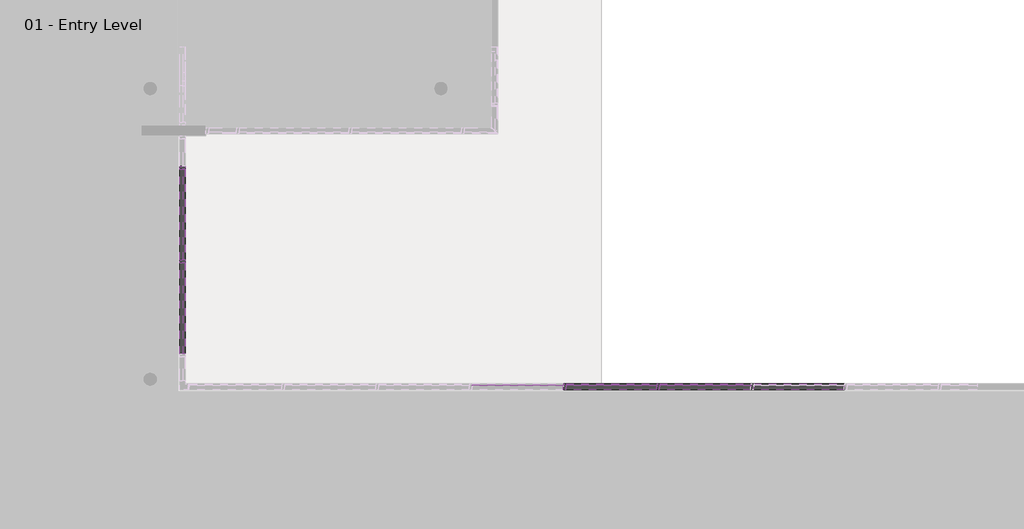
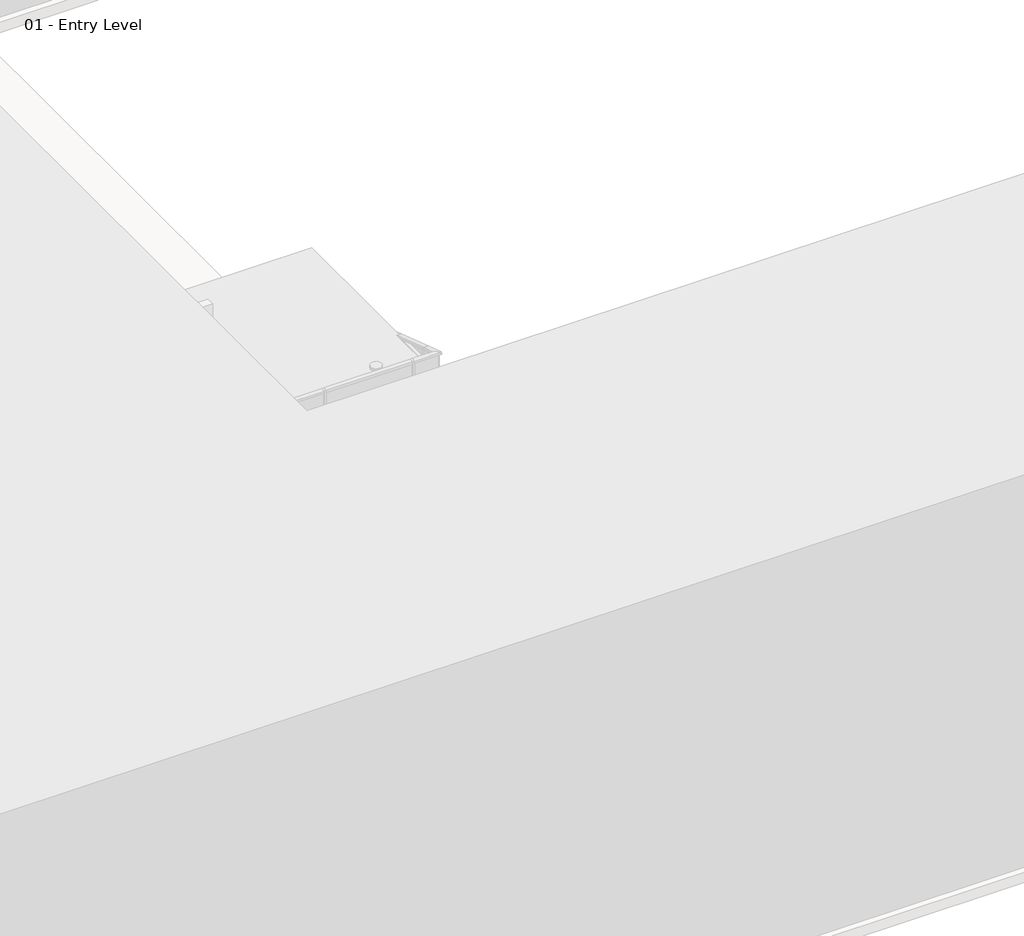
# One storey, part 10 of 34: 88 members, 44 plates.
"""IFC4 building model written with IfcOpenShell, lengths in millimetres."""

from ifc_helpers import new_model, si_unit, origin, place, context, project, spatial, transform, mapped, element, save
from components import member_2b49869a, member_391b434c, member_9e90ae50, member_e5d39754, system_panel_glazed_1b9d6098, system_panel_glazed_70da479d

model = new_model("IFC4")

# Units and contexts
model_context = context("Model", 3, world=origin())
ifc_project = project(units=[si_unit("LENGTHUNIT", "METRE", prefix="MILLI")], contexts=[model_context])

# Site, building, storey
site = spatial("IfcSite", under=ifc_project)
building = spatial("IfcBuilding", under=site)
storey = spatial("IfcBuildingStorey", under=building, Name="01 - Entry Level", Elevation=0.0)

# Members
placement = place(None, origin())
member_shape = member_2b49869a(model_context)
element("IfcMember", 1, ObjectType="Rectangular Mullion : 2.5\" x 5\" rectangular", at=placement, inside=storey, context=model_context, shape_type="MappedRepresentation", body=[
    mapped(member_shape, transform((27496.4207476, 11001.3, 9753.6), x_axis=(-1.0, 0.0, 0.0), y_axis=(0.0, 1.0, 0.0), z_axis=(0.0, 0.0, -1.0))),
])
element("IfcMember", 2, ObjectType="Rectangular Mullion : 2.5\" x 5\" rectangular", at=placement, inside=storey, context=model_context, shape_type="MappedRepresentation", body=[
    mapped(member_shape, transform((25464.4207476, 11001.3, 9753.6), x_axis=(-1.0, 0.0, 0.0), y_axis=(0.0, 1.0, 0.0), z_axis=(0.0, 0.0, -1.0))),
])
element("IfcMember", 3, ObjectType="Rectangular Mullion : 2.5\" x 5\" rectangular", at=placement, inside=storey, context=model_context, shape_type="MappedRepresentation", body=[
    mapped(member_shape, transform((17184.0207476, 13719.1, 9753.6), x_axis=(0.0, 1.0, 0.0), y_axis=(1.0, 0.0, 0.0), z_axis=(0.0, 0.0, -1.0))),
])
element("IfcMember", 4, ObjectType="Rectangular Mullion : 2.5\" x 5\" rectangular", at=placement, inside=storey, context=model_context, shape_type="MappedRepresentation", body=[
    mapped(member_shape, transform((17184.0207476, 15751.1, 9753.6), x_axis=(0.0, 1.0, 0.0), y_axis=(1.0, 0.0, 0.0), z_axis=(0.0, 0.0, -1.0))),
])
member_2_shape = member_391b434c(model_context)
element("IfcMember", 5, ObjectType="Rectangular Mullion : 2.5\" x 5\" rectangular", at=placement, inside=storey, context=model_context, shape_type="MappedRepresentation", body=[
    mapped(member_2_shape, transform((29560.1707476, 11001.3, 10972.8), x_axis=(0.0, 0.0, 1.0), y_axis=(0.0, 1.0, 0.0), z_axis=(-1.0, 0.0, 0.0))),
])
element("IfcMember", 6, ObjectType="Rectangular Mullion : 2.5\" x 5\" rectangular", at=placement, inside=storey, context=model_context, shape_type="MappedRepresentation", body=[
    mapped(member_2_shape, transform((27528.1707476, 11001.3, 10972.8), x_axis=(0.0, 0.0, 1.0), y_axis=(0.0, 1.0, 0.0), z_axis=(-1.0, 0.0, 0.0))),
])
element("IfcMember", 7, ObjectType="Rectangular Mullion : 2.5\" x 5\" rectangular", at=placement, inside=storey, context=model_context, shape_type="MappedRepresentation", body=[
    mapped(member_2_shape, transform((25496.1707476, 11001.3, 10972.8), x_axis=(0.0, 0.0, 1.0), y_axis=(0.0, 1.0, 0.0), z_axis=(-1.0, 0.0, 0.0))),
])
element("IfcMember", 8, ObjectType="Rectangular Mullion : 2.5\" x 5\" rectangular", at=placement, inside=storey, context=model_context, shape_type="MappedRepresentation", body=[
    mapped(member_2_shape, transform((17184.0207476, 13687.35, 10972.8), x_axis=(0.0, 0.0, 1.0), y_axis=(1.0, 0.0, 0.0), z_axis=(0.0, 1.0, 0.0))),
])
element("IfcMember", 9, ObjectType="Rectangular Mullion : 2.5\" x 5\" rectangular", at=placement, inside=storey, context=model_context, shape_type="MappedRepresentation", body=[
    mapped(member_2_shape, transform((17184.0207476, 15719.35, 10972.8), x_axis=(0.0, 0.0, 1.0), y_axis=(1.0, 0.0, 0.0), z_axis=(0.0, 1.0, 0.0))),
])
element("IfcMember", 10, ObjectType="Rectangular Mullion : 2.5\" x 5\" rectangular", at=placement, inside=storey, context=model_context, shape_type="MappedRepresentation", body=[
    mapped(member_2_shape, transform((29496.6707476, 11001.3, 0.0), x_axis=(0.0, 0.0, -1.0), y_axis=(0.0, 1.0, 0.0), z_axis=(1.0, 0.0, 0.0))),
])
element("IfcMember", 11, ObjectType="Rectangular Mullion : 2.5\" x 5\" rectangular", at=placement, inside=storey, context=model_context, shape_type="MappedRepresentation", body=[
    mapped(member_2_shape, transform((27464.6707476, 11001.3, 0.0), x_axis=(0.0, 0.0, -1.0), y_axis=(0.0, 1.0, 0.0), z_axis=(1.0, 0.0, 0.0))),
])
element("IfcMember", 12, ObjectType="Rectangular Mullion : 2.5\" x 5\" rectangular", at=placement, inside=storey, context=model_context, shape_type="MappedRepresentation", body=[
    mapped(member_2_shape, transform((25432.6707476, 11001.3, 0.0), x_axis=(0.0, 0.0, -1.0), y_axis=(0.0, 1.0, 0.0), z_axis=(1.0, 0.0, 0.0))),
])
element("IfcMember", 13, ObjectType="Rectangular Mullion : 2.5\" x 5\" rectangular", at=placement, inside=storey, context=model_context, shape_type="MappedRepresentation", body=[
    mapped(member_2_shape, transform((17184.0207476, 13750.85, 0.0), x_axis=(0.0, 0.0, -1.0), y_axis=(1.0, 0.0, 0.0), z_axis=(0.0, -1.0, 0.0))),
])
member_3_shape = member_9e90ae50(model_context)
element("IfcMember", 14, ObjectType="Rectangular Mullion : 2.5\" x 5\" rectangular", at=placement, inside=storey, context=model_context, shape_type="MappedRepresentation", body=[
    mapped(member_3_shape, transform((29560.1707476, 11001.3, 1219.2), x_axis=(0.0, 0.0, 1.0), y_axis=(0.0, 1.0, 0.0), z_axis=(-1.0, 0.0, 0.0))),
])
element("IfcMember", 15, ObjectType="Rectangular Mullion : 2.5\" x 5\" rectangular", at=placement, inside=storey, context=model_context, shape_type="MappedRepresentation", body=[
    mapped(member_3_shape, transform((27528.1707476, 11001.3, 1219.2), x_axis=(0.0, 0.0, 1.0), y_axis=(0.0, 1.0, 0.0), z_axis=(-1.0, 0.0, 0.0))),
])
element("IfcMember", 16, ObjectType="Rectangular Mullion : 2.5\" x 5\" rectangular", at=placement, inside=storey, context=model_context, shape_type="MappedRepresentation", body=[
    mapped(member_3_shape, transform((25496.1707476, 11001.3, 1219.2), x_axis=(0.0, 0.0, 1.0), y_axis=(0.0, 1.0, 0.0), z_axis=(-1.0, 0.0, 0.0))),
])
element("IfcMember", 17, ObjectType="Rectangular Mullion : 2.5\" x 5\" rectangular", at=placement, inside=storey, context=model_context, shape_type="MappedRepresentation", body=[
    mapped(member_3_shape, transform((29560.1707476, 11001.3, 2438.4), x_axis=(0.0, 0.0, 1.0), y_axis=(0.0, 1.0, 0.0), z_axis=(-1.0, 0.0, 0.0))),
])
element("IfcMember", 18, ObjectType="Rectangular Mullion : 2.5\" x 5\" rectangular", at=placement, inside=storey, context=model_context, shape_type="MappedRepresentation", body=[
    mapped(member_3_shape, transform((27528.1707476, 11001.3, 2438.4), x_axis=(0.0, 0.0, 1.0), y_axis=(0.0, 1.0, 0.0), z_axis=(-1.0, 0.0, 0.0))),
])
element("IfcMember", 19, ObjectType="Rectangular Mullion : 2.5\" x 5\" rectangular", at=placement, inside=storey, context=model_context, shape_type="MappedRepresentation", body=[
    mapped(member_3_shape, transform((25496.1707476, 11001.3, 2438.4), x_axis=(0.0, 0.0, 1.0), y_axis=(0.0, 1.0, 0.0), z_axis=(-1.0, 0.0, 0.0))),
])
element("IfcMember", 20, ObjectType="Rectangular Mullion : 2.5\" x 5\" rectangular", at=placement, inside=storey, context=model_context, shape_type="MappedRepresentation", body=[
    mapped(member_3_shape, transform((29560.1707476, 11001.3, 3657.6), x_axis=(0.0, 0.0, 1.0), y_axis=(0.0, 1.0, 0.0), z_axis=(-1.0, 0.0, 0.0))),
])
element("IfcMember", 21, ObjectType="Rectangular Mullion : 2.5\" x 5\" rectangular", at=placement, inside=storey, context=model_context, shape_type="MappedRepresentation", body=[
    mapped(member_3_shape, transform((27528.1707476, 11001.3, 3657.6), x_axis=(0.0, 0.0, 1.0), y_axis=(0.0, 1.0, 0.0), z_axis=(-1.0, 0.0, 0.0))),
])
element("IfcMember", 22, ObjectType="Rectangular Mullion : 2.5\" x 5\" rectangular", at=placement, inside=storey, context=model_context, shape_type="MappedRepresentation", body=[
    mapped(member_3_shape, transform((25496.1707476, 11001.3, 3657.6), x_axis=(0.0, 0.0, 1.0), y_axis=(0.0, 1.0, 0.0), z_axis=(-1.0, 0.0, 0.0))),
])
element("IfcMember", 23, ObjectType="Rectangular Mullion : 2.5\" x 5\" rectangular", at=placement, inside=storey, context=model_context, shape_type="MappedRepresentation", body=[
    mapped(member_3_shape, transform((29560.1707476, 11001.3, 4876.8), x_axis=(0.0, 0.0, 1.0), y_axis=(0.0, 1.0, 0.0), z_axis=(-1.0, 0.0, 0.0))),
])
element("IfcMember", 24, ObjectType="Rectangular Mullion : 2.5\" x 5\" rectangular", at=placement, inside=storey, context=model_context, shape_type="MappedRepresentation", body=[
    mapped(member_3_shape, transform((27528.1707476, 11001.3, 4876.8), x_axis=(0.0, 0.0, 1.0), y_axis=(0.0, 1.0, 0.0), z_axis=(-1.0, 0.0, 0.0))),
])
element("IfcMember", 25, ObjectType="Rectangular Mullion : 2.5\" x 5\" rectangular", at=placement, inside=storey, context=model_context, shape_type="MappedRepresentation", body=[
    mapped(member_3_shape, transform((25496.1707476, 11001.3, 4876.8), x_axis=(0.0, 0.0, 1.0), y_axis=(0.0, 1.0, 0.0), z_axis=(-1.0, 0.0, 0.0))),
])
element("IfcMember", 26, ObjectType="Rectangular Mullion : 2.5\" x 5\" rectangular", at=placement, inside=storey, context=model_context, shape_type="MappedRepresentation", body=[
    mapped(member_3_shape, transform((29560.1707476, 11001.3, 6096.0), x_axis=(0.0, 0.0, 1.0), y_axis=(0.0, 1.0, 0.0), z_axis=(-1.0, 0.0, 0.0))),
])
element("IfcMember", 27, ObjectType="Rectangular Mullion : 2.5\" x 5\" rectangular", at=placement, inside=storey, context=model_context, shape_type="MappedRepresentation", body=[
    mapped(member_3_shape, transform((27528.1707476, 11001.3, 6096.0), x_axis=(0.0, 0.0, 1.0), y_axis=(0.0, 1.0, 0.0), z_axis=(-1.0, 0.0, 0.0))),
])
element("IfcMember", 28, ObjectType="Rectangular Mullion : 2.5\" x 5\" rectangular", at=placement, inside=storey, context=model_context, shape_type="MappedRepresentation", body=[
    mapped(member_3_shape, transform((25496.1707476, 11001.3, 6096.0), x_axis=(0.0, 0.0, 1.0), y_axis=(0.0, 1.0, 0.0), z_axis=(-1.0, 0.0, 0.0))),
])
element("IfcMember", 29, ObjectType="Rectangular Mullion : 2.5\" x 5\" rectangular", at=placement, inside=storey, context=model_context, shape_type="MappedRepresentation", body=[
    mapped(member_3_shape, transform((29560.1707476, 11001.3, 7315.2), x_axis=(0.0, 0.0, 1.0), y_axis=(0.0, 1.0, 0.0), z_axis=(-1.0, 0.0, 0.0))),
])
element("IfcMember", 30, ObjectType="Rectangular Mullion : 2.5\" x 5\" rectangular", at=placement, inside=storey, context=model_context, shape_type="MappedRepresentation", body=[
    mapped(member_3_shape, transform((27528.1707476, 11001.3, 7315.2), x_axis=(0.0, 0.0, 1.0), y_axis=(0.0, 1.0, 0.0), z_axis=(-1.0, 0.0, 0.0))),
])
element("IfcMember", 31, ObjectType="Rectangular Mullion : 2.5\" x 5\" rectangular", at=placement, inside=storey, context=model_context, shape_type="MappedRepresentation", body=[
    mapped(member_3_shape, transform((25496.1707476, 11001.3, 7315.2), x_axis=(0.0, 0.0, 1.0), y_axis=(0.0, 1.0, 0.0), z_axis=(-1.0, 0.0, 0.0))),
])
element("IfcMember", 32, ObjectType="Rectangular Mullion : 2.5\" x 5\" rectangular", at=placement, inside=storey, context=model_context, shape_type="MappedRepresentation", body=[
    mapped(member_3_shape, transform((29560.1707476, 11001.3, 8534.4), x_axis=(0.0, 0.0, 1.0), y_axis=(0.0, 1.0, 0.0), z_axis=(-1.0, 0.0, 0.0))),
])
element("IfcMember", 33, ObjectType="Rectangular Mullion : 2.5\" x 5\" rectangular", at=placement, inside=storey, context=model_context, shape_type="MappedRepresentation", body=[
    mapped(member_3_shape, transform((27528.1707476, 11001.3, 8534.4), x_axis=(0.0, 0.0, 1.0), y_axis=(0.0, 1.0, 0.0), z_axis=(-1.0, 0.0, 0.0))),
])
element("IfcMember", 34, ObjectType="Rectangular Mullion : 2.5\" x 5\" rectangular", at=placement, inside=storey, context=model_context, shape_type="MappedRepresentation", body=[
    mapped(member_3_shape, transform((25496.1707476, 11001.3, 8534.4), x_axis=(0.0, 0.0, 1.0), y_axis=(0.0, 1.0, 0.0), z_axis=(-1.0, 0.0, 0.0))),
])
element("IfcMember", 35, ObjectType="Rectangular Mullion : 2.5\" x 5\" rectangular", at=placement, inside=storey, context=model_context, shape_type="MappedRepresentation", body=[
    mapped(member_3_shape, transform((29560.1707476, 11001.3, 9753.6), x_axis=(0.0, 0.0, 1.0), y_axis=(0.0, 1.0, 0.0), z_axis=(-1.0, 0.0, 0.0))),
])
element("IfcMember", 36, ObjectType="Rectangular Mullion : 2.5\" x 5\" rectangular", at=placement, inside=storey, context=model_context, shape_type="MappedRepresentation", body=[
    mapped(member_3_shape, transform((27528.1707476, 11001.3, 9753.6), x_axis=(0.0, 0.0, 1.0), y_axis=(0.0, 1.0, 0.0), z_axis=(-1.0, 0.0, 0.0))),
])
element("IfcMember", 37, ObjectType="Rectangular Mullion : 2.5\" x 5\" rectangular", at=placement, inside=storey, context=model_context, shape_type="MappedRepresentation", body=[
    mapped(member_3_shape, transform((25496.1707476, 11001.3, 9753.6), x_axis=(0.0, 0.0, 1.0), y_axis=(0.0, 1.0, 0.0), z_axis=(-1.0, 0.0, 0.0))),
])
element("IfcMember", 38, ObjectType="Rectangular Mullion : 2.5\" x 5\" rectangular", at=placement, inside=storey, context=model_context, shape_type="MappedRepresentation", body=[
    mapped(member_3_shape, transform((17184.0207476, 13687.35, 1219.2), x_axis=(0.0, 0.0, 1.0), y_axis=(1.0, 0.0, 0.0), z_axis=(0.0, 1.0, 0.0))),
])
element("IfcMember", 39, ObjectType="Rectangular Mullion : 2.5\" x 5\" rectangular", at=placement, inside=storey, context=model_context, shape_type="MappedRepresentation", body=[
    mapped(member_3_shape, transform((17184.0207476, 15719.35, 1219.2), x_axis=(0.0, 0.0, 1.0), y_axis=(1.0, 0.0, 0.0), z_axis=(0.0, 1.0, 0.0))),
])
element("IfcMember", 40, ObjectType="Rectangular Mullion : 2.5\" x 5\" rectangular", at=placement, inside=storey, context=model_context, shape_type="MappedRepresentation", body=[
    mapped(member_3_shape, transform((17184.0207476, 13687.35, 2438.4), x_axis=(0.0, 0.0, 1.0), y_axis=(1.0, 0.0, 0.0), z_axis=(0.0, 1.0, 0.0))),
])
element("IfcMember", 41, ObjectType="Rectangular Mullion : 2.5\" x 5\" rectangular", at=placement, inside=storey, context=model_context, shape_type="MappedRepresentation", body=[
    mapped(member_3_shape, transform((17184.0207476, 15719.35, 2438.4), x_axis=(0.0, 0.0, 1.0), y_axis=(1.0, 0.0, 0.0), z_axis=(0.0, 1.0, 0.0))),
])
element("IfcMember", 42, ObjectType="Rectangular Mullion : 2.5\" x 5\" rectangular", at=placement, inside=storey, context=model_context, shape_type="MappedRepresentation", body=[
    mapped(member_3_shape, transform((17184.0207476, 13687.35, 3657.6), x_axis=(0.0, 0.0, 1.0), y_axis=(1.0, 0.0, 0.0), z_axis=(0.0, 1.0, 0.0))),
])
element("IfcMember", 43, ObjectType="Rectangular Mullion : 2.5\" x 5\" rectangular", at=placement, inside=storey, context=model_context, shape_type="MappedRepresentation", body=[
    mapped(member_3_shape, transform((17184.0207476, 15719.35, 3657.6), x_axis=(0.0, 0.0, 1.0), y_axis=(1.0, 0.0, 0.0), z_axis=(0.0, 1.0, 0.0))),
])
element("IfcMember", 44, ObjectType="Rectangular Mullion : 2.5\" x 5\" rectangular", at=placement, inside=storey, context=model_context, shape_type="MappedRepresentation", body=[
    mapped(member_3_shape, transform((17184.0207476, 13687.35, 4876.8), x_axis=(0.0, 0.0, 1.0), y_axis=(1.0, 0.0, 0.0), z_axis=(0.0, 1.0, 0.0))),
])
element("IfcMember", 45, ObjectType="Rectangular Mullion : 2.5\" x 5\" rectangular", at=placement, inside=storey, context=model_context, shape_type="MappedRepresentation", body=[
    mapped(member_3_shape, transform((17184.0207476, 15719.35, 4876.8), x_axis=(0.0, 0.0, 1.0), y_axis=(1.0, 0.0, 0.0), z_axis=(0.0, 1.0, 0.0))),
])
element("IfcMember", 46, ObjectType="Rectangular Mullion : 2.5\" x 5\" rectangular", at=placement, inside=storey, context=model_context, shape_type="MappedRepresentation", body=[
    mapped(member_3_shape, transform((17184.0207476, 13687.35, 6096.0), x_axis=(0.0, 0.0, 1.0), y_axis=(1.0, 0.0, 0.0), z_axis=(0.0, 1.0, 0.0))),
])
element("IfcMember", 47, ObjectType="Rectangular Mullion : 2.5\" x 5\" rectangular", at=placement, inside=storey, context=model_context, shape_type="MappedRepresentation", body=[
    mapped(member_3_shape, transform((17184.0207476, 15719.35, 6096.0), x_axis=(0.0, 0.0, 1.0), y_axis=(1.0, 0.0, 0.0), z_axis=(0.0, 1.0, 0.0))),
])
element("IfcMember", 48, ObjectType="Rectangular Mullion : 2.5\" x 5\" rectangular", at=placement, inside=storey, context=model_context, shape_type="MappedRepresentation", body=[
    mapped(member_3_shape, transform((17184.0207476, 13687.35, 7315.2), x_axis=(0.0, 0.0, 1.0), y_axis=(1.0, 0.0, 0.0), z_axis=(0.0, 1.0, 0.0))),
])
element("IfcMember", 49, ObjectType="Rectangular Mullion : 2.5\" x 5\" rectangular", at=placement, inside=storey, context=model_context, shape_type="MappedRepresentation", body=[
    mapped(member_3_shape, transform((17184.0207476, 15719.35, 7315.2), x_axis=(0.0, 0.0, 1.0), y_axis=(1.0, 0.0, 0.0), z_axis=(0.0, 1.0, 0.0))),
])
element("IfcMember", 50, ObjectType="Rectangular Mullion : 2.5\" x 5\" rectangular", at=placement, inside=storey, context=model_context, shape_type="MappedRepresentation", body=[
    mapped(member_3_shape, transform((17184.0207476, 13687.35, 8534.4), x_axis=(0.0, 0.0, 1.0), y_axis=(1.0, 0.0, 0.0), z_axis=(0.0, 1.0, 0.0))),
])
element("IfcMember", 51, ObjectType="Rectangular Mullion : 2.5\" x 5\" rectangular", at=placement, inside=storey, context=model_context, shape_type="MappedRepresentation", body=[
    mapped(member_3_shape, transform((17184.0207476, 15719.35, 8534.4), x_axis=(0.0, 0.0, 1.0), y_axis=(1.0, 0.0, 0.0), z_axis=(0.0, 1.0, 0.0))),
])
element("IfcMember", 52, ObjectType="Rectangular Mullion : 2.5\" x 5\" rectangular", at=placement, inside=storey, context=model_context, shape_type="MappedRepresentation", body=[
    mapped(member_3_shape, transform((17184.0207476, 13687.35, 9753.6), x_axis=(0.0, 0.0, 1.0), y_axis=(1.0, 0.0, 0.0), z_axis=(0.0, 1.0, 0.0))),
])
element("IfcMember", 53, ObjectType="Rectangular Mullion : 2.5\" x 5\" rectangular", at=placement, inside=storey, context=model_context, shape_type="MappedRepresentation", body=[
    mapped(member_3_shape, transform((17184.0207476, 15719.35, 9753.6), x_axis=(0.0, 0.0, 1.0), y_axis=(1.0, 0.0, 0.0), z_axis=(0.0, 1.0, 0.0))),
])
element("IfcMember", 54, ObjectType="Rectangular Mullion : 2.5\" x 5\" rectangular", at=placement, inside=storey, context=model_context, shape_type="MappedRepresentation", body=[
    mapped(member_shape, transform((29528.4207476, 11001.3, 0.0), x_axis=(-1.0, 0.0, 0.0), y_axis=(0.0, 1.0, 0.0), z_axis=(0.0, 0.0, -1.0))),
])
element("IfcMember", 55, ObjectType="Rectangular Mullion : 2.5\" x 5\" rectangular", at=placement, inside=storey, context=model_context, shape_type="MappedRepresentation", body=[
    mapped(member_shape, transform((27496.4207476, 11001.3, 0.0), x_axis=(-1.0, 0.0, 0.0), y_axis=(0.0, 1.0, 0.0), z_axis=(0.0, 0.0, -1.0))),
])
element("IfcMember", 56, ObjectType="Rectangular Mullion : 2.5\" x 5\" rectangular", at=placement, inside=storey, context=model_context, shape_type="MappedRepresentation", body=[
    mapped(member_shape, transform((25464.4207476, 11001.3, 0.0), x_axis=(-1.0, 0.0, 0.0), y_axis=(0.0, 1.0, 0.0), z_axis=(0.0, 0.0, -1.0))),
])
element("IfcMember", 57, ObjectType="Rectangular Mullion : 2.5\" x 5\" rectangular", at=placement, inside=storey, context=model_context, shape_type="MappedRepresentation", body=[
    mapped(member_shape, transform((17184.0207476, 13719.1, 0.0), x_axis=(0.0, 1.0, 0.0), y_axis=(1.0, 0.0, 0.0), z_axis=(0.0, 0.0, -1.0))),
])
element("IfcMember", 58, ObjectType="Rectangular Mullion : 2.5\" x 5\" rectangular", at=placement, inside=storey, context=model_context, shape_type="MappedRepresentation", body=[
    mapped(member_shape, transform((17184.0207476, 15751.1, 0.0), x_axis=(0.0, 1.0, 0.0), y_axis=(1.0, 0.0, 0.0), z_axis=(0.0, 0.0, -1.0))),
])
element("IfcMember", 59, ObjectType="Rectangular Mullion : 2.5\" x 5\" rectangular", at=placement, inside=storey, context=model_context, shape_type="MappedRepresentation", body=[
    mapped(member_shape, transform((29528.4207476, 11001.3, 1219.2), x_axis=(-1.0, 0.0, 0.0), y_axis=(0.0, 1.0, 0.0), z_axis=(0.0, 0.0, -1.0))),
])
element("IfcMember", 60, ObjectType="Rectangular Mullion : 2.5\" x 5\" rectangular", at=placement, inside=storey, context=model_context, shape_type="MappedRepresentation", body=[
    mapped(member_shape, transform((27496.4207476, 11001.3, 1219.2), x_axis=(-1.0, 0.0, 0.0), y_axis=(0.0, 1.0, 0.0), z_axis=(0.0, 0.0, -1.0))),
])
element("IfcMember", 61, ObjectType="Rectangular Mullion : 2.5\" x 5\" rectangular", at=placement, inside=storey, context=model_context, shape_type="MappedRepresentation", body=[
    mapped(member_shape, transform((25464.4207476, 11001.3, 1219.2), x_axis=(-1.0, 0.0, 0.0), y_axis=(0.0, 1.0, 0.0), z_axis=(0.0, 0.0, -1.0))),
])
element("IfcMember", 62, ObjectType="Rectangular Mullion : 2.5\" x 5\" rectangular", at=placement, inside=storey, context=model_context, shape_type="MappedRepresentation", body=[
    mapped(member_shape, transform((27496.4207476, 11001.3, 2438.4), x_axis=(-1.0, 0.0, 0.0), y_axis=(0.0, 1.0, 0.0), z_axis=(0.0, 0.0, -1.0))),
])
element("IfcMember", 63, ObjectType="Rectangular Mullion : 2.5\" x 5\" rectangular", at=placement, inside=storey, context=model_context, shape_type="MappedRepresentation", body=[
    mapped(member_shape, transform((25464.4207476, 11001.3, 2438.4), x_axis=(-1.0, 0.0, 0.0), y_axis=(0.0, 1.0, 0.0), z_axis=(0.0, 0.0, -1.0))),
])
element("IfcMember", 64, ObjectType="Rectangular Mullion : 2.5\" x 5\" rectangular", at=placement, inside=storey, context=model_context, shape_type="MappedRepresentation", body=[
    mapped(member_shape, transform((27496.4207476, 11001.3, 3657.6), x_axis=(-1.0, 0.0, 0.0), y_axis=(0.0, 1.0, 0.0), z_axis=(0.0, 0.0, -1.0))),
])
element("IfcMember", 65, ObjectType="Rectangular Mullion : 2.5\" x 5\" rectangular", at=placement, inside=storey, context=model_context, shape_type="MappedRepresentation", body=[
    mapped(member_shape, transform((25464.4207476, 11001.3, 3657.6), x_axis=(-1.0, 0.0, 0.0), y_axis=(0.0, 1.0, 0.0), z_axis=(0.0, 0.0, -1.0))),
])
element("IfcMember", 66, ObjectType="Rectangular Mullion : 2.5\" x 5\" rectangular", at=placement, inside=storey, context=model_context, shape_type="MappedRepresentation", body=[
    mapped(member_shape, transform((27496.4207476, 11001.3, 4876.8), x_axis=(-1.0, 0.0, 0.0), y_axis=(0.0, 1.0, 0.0), z_axis=(0.0, 0.0, -1.0))),
])
element("IfcMember", 67, ObjectType="Rectangular Mullion : 2.5\" x 5\" rectangular", at=placement, inside=storey, context=model_context, shape_type="MappedRepresentation", body=[
    mapped(member_shape, transform((25464.4207476, 11001.3, 4876.8), x_axis=(-1.0, 0.0, 0.0), y_axis=(0.0, 1.0, 0.0), z_axis=(0.0, 0.0, -1.0))),
])
element("IfcMember", 68, ObjectType="Rectangular Mullion : 2.5\" x 5\" rectangular", at=placement, inside=storey, context=model_context, shape_type="MappedRepresentation", body=[
    mapped(member_shape, transform((27496.4207476, 11001.3, 6096.0), x_axis=(-1.0, 0.0, 0.0), y_axis=(0.0, 1.0, 0.0), z_axis=(0.0, 0.0, -1.0))),
])
element("IfcMember", 69, ObjectType="Rectangular Mullion : 2.5\" x 5\" rectangular", at=placement, inside=storey, context=model_context, shape_type="MappedRepresentation", body=[
    mapped(member_shape, transform((25464.4207476, 11001.3, 6096.0), x_axis=(-1.0, 0.0, 0.0), y_axis=(0.0, 1.0, 0.0), z_axis=(0.0, 0.0, -1.0))),
])
element("IfcMember", 70, ObjectType="Rectangular Mullion : 2.5\" x 5\" rectangular", at=placement, inside=storey, context=model_context, shape_type="MappedRepresentation", body=[
    mapped(member_shape, transform((27496.4207476, 11001.3, 7315.2), x_axis=(-1.0, 0.0, 0.0), y_axis=(0.0, 1.0, 0.0), z_axis=(0.0, 0.0, -1.0))),
])
element("IfcMember", 71, ObjectType="Rectangular Mullion : 2.5\" x 5\" rectangular", at=placement, inside=storey, context=model_context, shape_type="MappedRepresentation", body=[
    mapped(member_shape, transform((25464.4207476, 11001.3, 7315.2), x_axis=(-1.0, 0.0, 0.0), y_axis=(0.0, 1.0, 0.0), z_axis=(0.0, 0.0, -1.0))),
])
element("IfcMember", 72, ObjectType="Rectangular Mullion : 2.5\" x 5\" rectangular", at=placement, inside=storey, context=model_context, shape_type="MappedRepresentation", body=[
    mapped(member_shape, transform((27496.4207476, 11001.3, 8534.4), x_axis=(-1.0, 0.0, 0.0), y_axis=(0.0, 1.0, 0.0), z_axis=(0.0, 0.0, -1.0))),
])
element("IfcMember", 73, ObjectType="Rectangular Mullion : 2.5\" x 5\" rectangular", at=placement, inside=storey, context=model_context, shape_type="MappedRepresentation", body=[
    mapped(member_shape, transform((25464.4207476, 11001.3, 8534.4), x_axis=(-1.0, 0.0, 0.0), y_axis=(0.0, 1.0, 0.0), z_axis=(0.0, 0.0, -1.0))),
])
element("IfcMember", 74, ObjectType="Rectangular Mullion : 2.5\" x 5\" rectangular", at=placement, inside=storey, context=model_context, shape_type="MappedRepresentation", body=[
    mapped(member_shape, transform((17184.0207476, 13719.1, 1219.2), x_axis=(0.0, 1.0, 0.0), y_axis=(1.0, 0.0, 0.0), z_axis=(0.0, 0.0, -1.0))),
])
element("IfcMember", 75, ObjectType="Rectangular Mullion : 2.5\" x 5\" rectangular", at=placement, inside=storey, context=model_context, shape_type="MappedRepresentation", body=[
    mapped(member_shape, transform((17184.0207476, 13719.1, 2438.4), x_axis=(0.0, 1.0, 0.0), y_axis=(1.0, 0.0, 0.0), z_axis=(0.0, 0.0, -1.0))),
])
element("IfcMember", 76, ObjectType="Rectangular Mullion : 2.5\" x 5\" rectangular", at=placement, inside=storey, context=model_context, shape_type="MappedRepresentation", body=[
    mapped(member_shape, transform((17184.0207476, 13719.1, 3657.6), x_axis=(0.0, 1.0, 0.0), y_axis=(1.0, 0.0, 0.0), z_axis=(0.0, 0.0, -1.0))),
])
element("IfcMember", 77, ObjectType="Rectangular Mullion : 2.5\" x 5\" rectangular", at=placement, inside=storey, context=model_context, shape_type="MappedRepresentation", body=[
    mapped(member_shape, transform((17184.0207476, 13719.1, 4876.8), x_axis=(0.0, 1.0, 0.0), y_axis=(1.0, 0.0, 0.0), z_axis=(0.0, 0.0, -1.0))),
])
element("IfcMember", 78, ObjectType="Rectangular Mullion : 2.5\" x 5\" rectangular", at=placement, inside=storey, context=model_context, shape_type="MappedRepresentation", body=[
    mapped(member_shape, transform((17184.0207476, 13719.1, 6096.0), x_axis=(0.0, 1.0, 0.0), y_axis=(1.0, 0.0, 0.0), z_axis=(0.0, 0.0, -1.0))),
])
element("IfcMember", 79, ObjectType="Rectangular Mullion : 2.5\" x 5\" rectangular", at=placement, inside=storey, context=model_context, shape_type="MappedRepresentation", body=[
    mapped(member_shape, transform((17184.0207476, 13719.1, 7315.2), x_axis=(0.0, 1.0, 0.0), y_axis=(1.0, 0.0, 0.0), z_axis=(0.0, 0.0, -1.0))),
])
element("IfcMember", 80, ObjectType="Rectangular Mullion : 2.5\" x 5\" rectangular", at=placement, inside=storey, context=model_context, shape_type="MappedRepresentation", body=[
    mapped(member_shape, transform((17184.0207476, 13719.1, 8534.4), x_axis=(0.0, 1.0, 0.0), y_axis=(1.0, 0.0, 0.0), z_axis=(0.0, 0.0, -1.0))),
])
element("IfcMember", 81, ObjectType="Rectangular Mullion : 2.5\" x 5\" rectangular", at=placement, inside=storey, context=model_context, shape_type="MappedRepresentation", body=[
    mapped(member_shape, transform((17184.0207476, 15751.1, 1219.2), x_axis=(0.0, 1.0, 0.0), y_axis=(1.0, 0.0, 0.0), z_axis=(0.0, 0.0, -1.0))),
])
element("IfcMember", 82, ObjectType="Rectangular Mullion : 2.5\" x 5\" rectangular", at=placement, inside=storey, context=model_context, shape_type="MappedRepresentation", body=[
    mapped(member_shape, transform((17184.0207476, 15751.1, 2438.4), x_axis=(0.0, 1.0, 0.0), y_axis=(1.0, 0.0, 0.0), z_axis=(0.0, 0.0, -1.0))),
])
element("IfcMember", 83, ObjectType="Rectangular Mullion : 2.5\" x 5\" rectangular", at=placement, inside=storey, context=model_context, shape_type="MappedRepresentation", body=[
    mapped(member_shape, transform((17184.0207476, 15751.1, 3657.6), x_axis=(0.0, 1.0, 0.0), y_axis=(1.0, 0.0, 0.0), z_axis=(0.0, 0.0, -1.0))),
])
element("IfcMember", 84, ObjectType="Rectangular Mullion : 2.5\" x 5\" rectangular", at=placement, inside=storey, context=model_context, shape_type="MappedRepresentation", body=[
    mapped(member_shape, transform((17184.0207476, 15751.1, 4876.8), x_axis=(0.0, 1.0, 0.0), y_axis=(1.0, 0.0, 0.0), z_axis=(0.0, 0.0, -1.0))),
])
element("IfcMember", 85, ObjectType="Rectangular Mullion : 2.5\" x 5\" rectangular", at=placement, inside=storey, context=model_context, shape_type="MappedRepresentation", body=[
    mapped(member_shape, transform((17184.0207476, 15751.1, 6096.0), x_axis=(0.0, 1.0, 0.0), y_axis=(1.0, 0.0, 0.0), z_axis=(0.0, 0.0, -1.0))),
])
element("IfcMember", 86, ObjectType="Rectangular Mullion : 2.5\" x 5\" rectangular", at=placement, inside=storey, context=model_context, shape_type="MappedRepresentation", body=[
    mapped(member_shape, transform((17184.0207476, 15751.1, 7315.2), x_axis=(0.0, 1.0, 0.0), y_axis=(1.0, 0.0, 0.0), z_axis=(0.0, 0.0, -1.0))),
])
element("IfcMember", 87, ObjectType="Rectangular Mullion : 2.5\" x 5\" rectangular", at=placement, inside=storey, context=model_context, shape_type="MappedRepresentation", body=[
    mapped(member_shape, transform((17184.0207476, 15751.1, 8534.4), x_axis=(0.0, 1.0, 0.0), y_axis=(1.0, 0.0, 0.0), z_axis=(0.0, 0.0, -1.0))),
])
member_4_shape = member_e5d39754(model_context)
element("IfcMember", 88, ObjectType="Rectangular Mullion : 2.5\" x 5\" rectangular", at=placement, inside=storey, context=model_context, shape_type="MappedRepresentation", body=[
    mapped(member_4_shape, transform((17184.0207476, 15782.85, 0.0), x_axis=(0.0, 0.0, -1.0), y_axis=(1.0, 0.0, 0.0), z_axis=(0.0, -1.0, 0.0))),
])

# Plates
system_panel_glazed_shape = system_panel_glazed_1b9d6098(model_context)
element("IfcPlate", 89, ObjectType="System Panel : Glazed", at=placement, inside=storey, context=model_context, shape_type="MappedRepresentation", body=[
    mapped(system_panel_glazed_shape, transform((28512.4207476, 11001.3, 63.5), x_axis=(-1.0, 0.0, 0.0), y_axis=(0.0, -1.0, 0.0), z_axis=(0.0, 0.0, 1.0))),
])
element("IfcPlate", 90, ObjectType="System Panel : Glazed", at=placement, inside=storey, context=model_context, shape_type="MappedRepresentation", body=[
    mapped(system_panel_glazed_shape, transform((26480.4207476, 11001.3, 63.5), x_axis=(-1.0, 0.0, 0.0), y_axis=(0.0, -1.0, 0.0), z_axis=(0.0, 0.0, 1.0))),
])
element("IfcPlate", 91, ObjectType="System Panel : Glazed", at=placement, inside=storey, context=model_context, shape_type="MappedRepresentation", body=[
    mapped(system_panel_glazed_shape, transform((24448.4207476, 11001.3, 63.5), x_axis=(-1.0, 0.0, 0.0), y_axis=(0.0, -1.0, 0.0), z_axis=(0.0, 0.0, 1.0))),
])
element("IfcPlate", 92, ObjectType="System Panel : Glazed", at=placement, inside=storey, context=model_context, shape_type="MappedRepresentation", body=[
    mapped(system_panel_glazed_shape, transform((28512.4207476, 11001.3, 9785.35), x_axis=(-1.0, 0.0, 0.0), y_axis=(0.0, -1.0, 0.0), z_axis=(0.0, 0.0, 1.0))),
])
element("IfcPlate", 93, ObjectType="System Panel : Glazed", at=placement, inside=storey, context=model_context, shape_type="MappedRepresentation", body=[
    mapped(system_panel_glazed_shape, transform((26480.4207476, 11001.3, 9785.35), x_axis=(-1.0, 0.0, 0.0), y_axis=(0.0, -1.0, 0.0), z_axis=(0.0, 0.0, 1.0))),
])
element("IfcPlate", 94, ObjectType="System Panel : Glazed", at=placement, inside=storey, context=model_context, shape_type="MappedRepresentation", body=[
    mapped(system_panel_glazed_shape, transform((24448.4207476, 11001.3, 9785.35), x_axis=(-1.0, 0.0, 0.0), y_axis=(0.0, -1.0, 0.0), z_axis=(0.0, 0.0, 1.0))),
])
element("IfcPlate", 95, ObjectType="System Panel : Glazed", at=placement, inside=storey, context=model_context, shape_type="MappedRepresentation", body=[
    mapped(system_panel_glazed_shape, transform((17184.0207476, 14735.1, 63.5), x_axis=(0.0, 1.0, 0.0), y_axis=(-1.0, 0.0, 0.0), z_axis=(0.0, 0.0, 1.0))),
])
element("IfcPlate", 96, ObjectType="System Panel : Glazed", at=placement, inside=storey, context=model_context, shape_type="MappedRepresentation", body=[
    mapped(system_panel_glazed_shape, transform((17184.0207476, 12703.1, 9785.35), x_axis=(0.0, 1.0, 0.0), y_axis=(-1.0, 0.0, 0.0), z_axis=(0.0, 0.0, 1.0))),
])
element("IfcPlate", 97, ObjectType="System Panel : Glazed", at=placement, inside=storey, context=model_context, shape_type="MappedRepresentation", body=[
    mapped(system_panel_glazed_shape, transform((17184.0207476, 14735.1, 9785.35), x_axis=(0.0, 1.0, 0.0), y_axis=(-1.0, 0.0, 0.0), z_axis=(0.0, 0.0, 1.0))),
])
system_panel_glazed_2_shape = system_panel_glazed_70da479d(model_context)
element("IfcPlate", 98, ObjectType="System Panel : Glazed", at=placement, inside=storey, context=model_context, shape_type="MappedRepresentation", body=[
    mapped(system_panel_glazed_2_shape, transform((28512.4207476, 11001.3, 1250.95), x_axis=(-1.0, 0.0, 0.0), y_axis=(0.0, -1.0, 0.0), z_axis=(0.0, 0.0, 1.0))),
])
element("IfcPlate", 99, ObjectType="System Panel : Glazed", at=placement, inside=storey, context=model_context, shape_type="MappedRepresentation", body=[
    mapped(system_panel_glazed_2_shape, transform((26480.4207476, 11001.3, 1250.95), x_axis=(-1.0, 0.0, 0.0), y_axis=(0.0, -1.0, 0.0), z_axis=(0.0, 0.0, 1.0))),
])
element("IfcPlate", 100, ObjectType="System Panel : Glazed", at=placement, inside=storey, context=model_context, shape_type="MappedRepresentation", body=[
    mapped(system_panel_glazed_2_shape, transform((24448.4207476, 11001.3, 1250.95), x_axis=(-1.0, 0.0, 0.0), y_axis=(0.0, -1.0, 0.0), z_axis=(0.0, 0.0, 1.0))),
])
element("IfcPlate", 101, ObjectType="System Panel : Glazed", at=placement, inside=storey, context=model_context, shape_type="MappedRepresentation", body=[
    mapped(system_panel_glazed_2_shape, transform((28512.4207476, 11001.3, 2470.15), x_axis=(-1.0, 0.0, 0.0), y_axis=(0.0, -1.0, 0.0), z_axis=(0.0, 0.0, 1.0))),
])
element("IfcPlate", 102, ObjectType="System Panel : Glazed", at=placement, inside=storey, context=model_context, shape_type="MappedRepresentation", body=[
    mapped(system_panel_glazed_2_shape, transform((26480.4207476, 11001.3, 2470.15), x_axis=(-1.0, 0.0, 0.0), y_axis=(0.0, -1.0, 0.0), z_axis=(0.0, 0.0, 1.0))),
])
element("IfcPlate", 103, ObjectType="System Panel : Glazed", at=placement, inside=storey, context=model_context, shape_type="MappedRepresentation", body=[
    mapped(system_panel_glazed_2_shape, transform((24448.4207476, 11001.3, 2470.15), x_axis=(-1.0, 0.0, 0.0), y_axis=(0.0, -1.0, 0.0), z_axis=(0.0, 0.0, 1.0))),
])
element("IfcPlate", 104, ObjectType="System Panel : Glazed", at=placement, inside=storey, context=model_context, shape_type="MappedRepresentation", body=[
    mapped(system_panel_glazed_2_shape, transform((28512.4207476, 11001.3, 3689.35), x_axis=(-1.0, 0.0, 0.0), y_axis=(0.0, -1.0, 0.0), z_axis=(0.0, 0.0, 1.0))),
])
element("IfcPlate", 105, ObjectType="System Panel : Glazed", at=placement, inside=storey, context=model_context, shape_type="MappedRepresentation", body=[
    mapped(system_panel_glazed_2_shape, transform((26480.4207476, 11001.3, 3689.35), x_axis=(-1.0, 0.0, 0.0), y_axis=(0.0, -1.0, 0.0), z_axis=(0.0, 0.0, 1.0))),
])
element("IfcPlate", 106, ObjectType="System Panel : Glazed", at=placement, inside=storey, context=model_context, shape_type="MappedRepresentation", body=[
    mapped(system_panel_glazed_2_shape, transform((24448.4207476, 11001.3, 3689.35), x_axis=(-1.0, 0.0, 0.0), y_axis=(0.0, -1.0, 0.0), z_axis=(0.0, 0.0, 1.0))),
])
element("IfcPlate", 107, ObjectType="System Panel : Glazed", at=placement, inside=storey, context=model_context, shape_type="MappedRepresentation", body=[
    mapped(system_panel_glazed_2_shape, transform((28512.4207476, 11001.3, 4908.55), x_axis=(-1.0, 0.0, 0.0), y_axis=(0.0, -1.0, 0.0), z_axis=(0.0, 0.0, 1.0))),
])
element("IfcPlate", 108, ObjectType="System Panel : Glazed", at=placement, inside=storey, context=model_context, shape_type="MappedRepresentation", body=[
    mapped(system_panel_glazed_2_shape, transform((26480.4207476, 11001.3, 4908.55), x_axis=(-1.0, 0.0, 0.0), y_axis=(0.0, -1.0, 0.0), z_axis=(0.0, 0.0, 1.0))),
])
element("IfcPlate", 109, ObjectType="System Panel : Glazed", at=placement, inside=storey, context=model_context, shape_type="MappedRepresentation", body=[
    mapped(system_panel_glazed_2_shape, transform((24448.4207476, 11001.3, 4908.55), x_axis=(-1.0, 0.0, 0.0), y_axis=(0.0, -1.0, 0.0), z_axis=(0.0, 0.0, 1.0))),
])
element("IfcPlate", 110, ObjectType="System Panel : Glazed", at=placement, inside=storey, context=model_context, shape_type="MappedRepresentation", body=[
    mapped(system_panel_glazed_2_shape, transform((28512.4207476, 11001.3, 6127.75), x_axis=(-1.0, 0.0, 0.0), y_axis=(0.0, -1.0, 0.0), z_axis=(0.0, 0.0, 1.0))),
])
element("IfcPlate", 111, ObjectType="System Panel : Glazed", at=placement, inside=storey, context=model_context, shape_type="MappedRepresentation", body=[
    mapped(system_panel_glazed_2_shape, transform((26480.4207476, 11001.3, 6127.75), x_axis=(-1.0, 0.0, 0.0), y_axis=(0.0, -1.0, 0.0), z_axis=(0.0, 0.0, 1.0))),
])
element("IfcPlate", 112, ObjectType="System Panel : Glazed", at=placement, inside=storey, context=model_context, shape_type="MappedRepresentation", body=[
    mapped(system_panel_glazed_2_shape, transform((24448.4207476, 11001.3, 6127.75), x_axis=(-1.0, 0.0, 0.0), y_axis=(0.0, -1.0, 0.0), z_axis=(0.0, 0.0, 1.0))),
])
element("IfcPlate", 113, ObjectType="System Panel : Glazed", at=placement, inside=storey, context=model_context, shape_type="MappedRepresentation", body=[
    mapped(system_panel_glazed_2_shape, transform((28512.4207476, 11001.3, 7346.95), x_axis=(-1.0, 0.0, 0.0), y_axis=(0.0, -1.0, 0.0), z_axis=(0.0, 0.0, 1.0))),
])
element("IfcPlate", 114, ObjectType="System Panel : Glazed", at=placement, inside=storey, context=model_context, shape_type="MappedRepresentation", body=[
    mapped(system_panel_glazed_2_shape, transform((26480.4207476, 11001.3, 7346.95), x_axis=(-1.0, 0.0, 0.0), y_axis=(0.0, -1.0, 0.0), z_axis=(0.0, 0.0, 1.0))),
])
element("IfcPlate", 115, ObjectType="System Panel : Glazed", at=placement, inside=storey, context=model_context, shape_type="MappedRepresentation", body=[
    mapped(system_panel_glazed_2_shape, transform((24448.4207476, 11001.3, 7346.95), x_axis=(-1.0, 0.0, 0.0), y_axis=(0.0, -1.0, 0.0), z_axis=(0.0, 0.0, 1.0))),
])
element("IfcPlate", 116, ObjectType="System Panel : Glazed", at=placement, inside=storey, context=model_context, shape_type="MappedRepresentation", body=[
    mapped(system_panel_glazed_2_shape, transform((28512.4207476, 11001.3, 8566.15), x_axis=(-1.0, 0.0, 0.0), y_axis=(0.0, -1.0, 0.0), z_axis=(0.0, 0.0, 1.0))),
])
element("IfcPlate", 117, ObjectType="System Panel : Glazed", at=placement, inside=storey, context=model_context, shape_type="MappedRepresentation", body=[
    mapped(system_panel_glazed_2_shape, transform((26480.4207476, 11001.3, 8566.15), x_axis=(-1.0, 0.0, 0.0), y_axis=(0.0, -1.0, 0.0), z_axis=(0.0, 0.0, 1.0))),
])
element("IfcPlate", 118, ObjectType="System Panel : Glazed", at=placement, inside=storey, context=model_context, shape_type="MappedRepresentation", body=[
    mapped(system_panel_glazed_2_shape, transform((24448.4207476, 11001.3, 8566.15), x_axis=(-1.0, 0.0, 0.0), y_axis=(0.0, -1.0, 0.0), z_axis=(0.0, 0.0, 1.0))),
])
element("IfcPlate", 119, ObjectType="System Panel : Glazed", at=placement, inside=storey, context=model_context, shape_type="MappedRepresentation", body=[
    mapped(system_panel_glazed_2_shape, transform((17184.0207476, 12703.1, 1250.95), x_axis=(0.0, 1.0, 0.0), y_axis=(-1.0, 0.0, 0.0), z_axis=(0.0, 0.0, 1.0))),
])
element("IfcPlate", 120, ObjectType="System Panel : Glazed", at=placement, inside=storey, context=model_context, shape_type="MappedRepresentation", body=[
    mapped(system_panel_glazed_2_shape, transform((17184.0207476, 14735.1, 1250.95), x_axis=(0.0, 1.0, 0.0), y_axis=(-1.0, 0.0, 0.0), z_axis=(0.0, 0.0, 1.0))),
])
element("IfcPlate", 121, ObjectType="System Panel : Glazed", at=placement, inside=storey, context=model_context, shape_type="MappedRepresentation", body=[
    mapped(system_panel_glazed_2_shape, transform((17184.0207476, 12703.1, 2470.15), x_axis=(0.0, 1.0, 0.0), y_axis=(-1.0, 0.0, 0.0), z_axis=(0.0, 0.0, 1.0))),
])
element("IfcPlate", 122, ObjectType="System Panel : Glazed", at=placement, inside=storey, context=model_context, shape_type="MappedRepresentation", body=[
    mapped(system_panel_glazed_2_shape, transform((17184.0207476, 14735.1, 2470.15), x_axis=(0.0, 1.0, 0.0), y_axis=(-1.0, 0.0, 0.0), z_axis=(0.0, 0.0, 1.0))),
])
element("IfcPlate", 123, ObjectType="System Panel : Glazed", at=placement, inside=storey, context=model_context, shape_type="MappedRepresentation", body=[
    mapped(system_panel_glazed_2_shape, transform((17184.0207476, 12703.1, 3689.35), x_axis=(0.0, 1.0, 0.0), y_axis=(-1.0, 0.0, 0.0), z_axis=(0.0, 0.0, 1.0))),
])
element("IfcPlate", 124, ObjectType="System Panel : Glazed", at=placement, inside=storey, context=model_context, shape_type="MappedRepresentation", body=[
    mapped(system_panel_glazed_2_shape, transform((17184.0207476, 14735.1, 3689.35), x_axis=(0.0, 1.0, 0.0), y_axis=(-1.0, 0.0, 0.0), z_axis=(0.0, 0.0, 1.0))),
])
element("IfcPlate", 125, ObjectType="System Panel : Glazed", at=placement, inside=storey, context=model_context, shape_type="MappedRepresentation", body=[
    mapped(system_panel_glazed_2_shape, transform((17184.0207476, 12703.1, 4908.55), x_axis=(0.0, 1.0, 0.0), y_axis=(-1.0, 0.0, 0.0), z_axis=(0.0, 0.0, 1.0))),
])
element("IfcPlate", 126, ObjectType="System Panel : Glazed", at=placement, inside=storey, context=model_context, shape_type="MappedRepresentation", body=[
    mapped(system_panel_glazed_2_shape, transform((17184.0207476, 14735.1, 4908.55), x_axis=(0.0, 1.0, 0.0), y_axis=(-1.0, 0.0, 0.0), z_axis=(0.0, 0.0, 1.0))),
])
element("IfcPlate", 127, ObjectType="System Panel : Glazed", at=placement, inside=storey, context=model_context, shape_type="MappedRepresentation", body=[
    mapped(system_panel_glazed_2_shape, transform((17184.0207476, 12703.1, 6127.75), x_axis=(0.0, 1.0, 0.0), y_axis=(-1.0, 0.0, 0.0), z_axis=(0.0, 0.0, 1.0))),
])
element("IfcPlate", 128, ObjectType="System Panel : Glazed", at=placement, inside=storey, context=model_context, shape_type="MappedRepresentation", body=[
    mapped(system_panel_glazed_2_shape, transform((17184.0207476, 14735.1, 6127.75), x_axis=(0.0, 1.0, 0.0), y_axis=(-1.0, 0.0, 0.0), z_axis=(0.0, 0.0, 1.0))),
])
element("IfcPlate", 129, ObjectType="System Panel : Glazed", at=placement, inside=storey, context=model_context, shape_type="MappedRepresentation", body=[
    mapped(system_panel_glazed_2_shape, transform((17184.0207476, 12703.1, 7346.95), x_axis=(0.0, 1.0, 0.0), y_axis=(-1.0, 0.0, 0.0), z_axis=(0.0, 0.0, 1.0))),
])
element("IfcPlate", 130, ObjectType="System Panel : Glazed", at=placement, inside=storey, context=model_context, shape_type="MappedRepresentation", body=[
    mapped(system_panel_glazed_2_shape, transform((17184.0207476, 14735.1, 7346.95), x_axis=(0.0, 1.0, 0.0), y_axis=(-1.0, 0.0, 0.0), z_axis=(0.0, 0.0, 1.0))),
])
element("IfcPlate", 131, ObjectType="System Panel : Glazed", at=placement, inside=storey, context=model_context, shape_type="MappedRepresentation", body=[
    mapped(system_panel_glazed_2_shape, transform((17184.0207476, 12703.1, 8566.15), x_axis=(0.0, 1.0, 0.0), y_axis=(-1.0, 0.0, 0.0), z_axis=(0.0, 0.0, 1.0))),
])
element("IfcPlate", 132, ObjectType="System Panel : Glazed", at=placement, inside=storey, context=model_context, shape_type="MappedRepresentation", body=[
    mapped(system_panel_glazed_2_shape, transform((17184.0207476, 14735.1, 8566.15), x_axis=(0.0, 1.0, 0.0), y_axis=(-1.0, 0.0, 0.0), z_axis=(0.0, 0.0, 1.0))),
])

save(model, "model.ifc")
